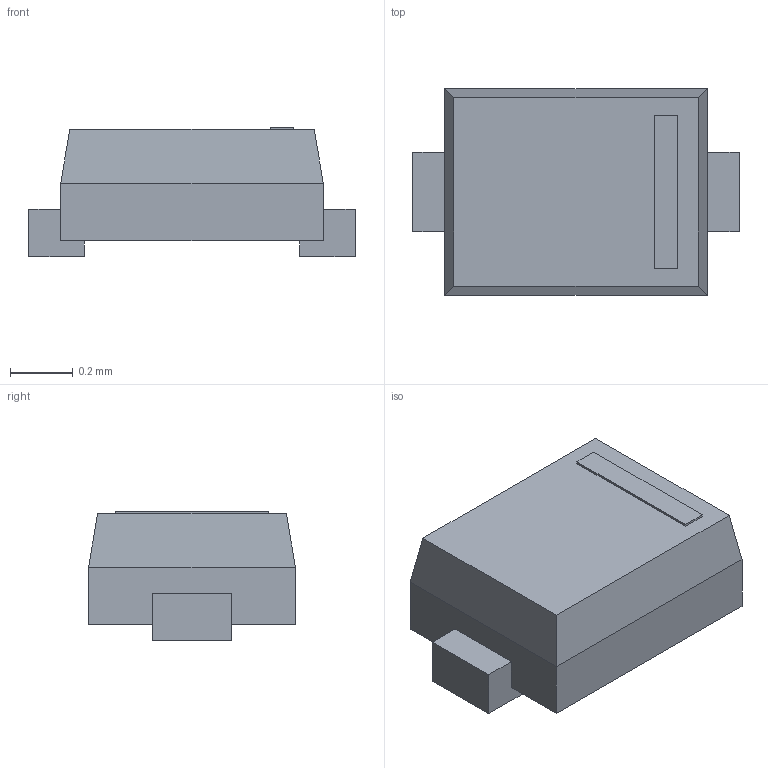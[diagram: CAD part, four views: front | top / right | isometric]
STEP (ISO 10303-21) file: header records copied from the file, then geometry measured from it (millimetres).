
FILE_DESCRIPTION(('STEP AP214'),'1');
FILE_NAME('ZDO_SOD-923_ONS','2021-09-22T01:34:02',(''),(''),'','','');
FILE_SCHEMA(('AUTOMOTIVE_DESIGN'));
Length unit declared in the file: millimetre
Products named in the file (1): product
Bounding box: 1.04 x 0.66 x 0.41 mm (x, y, z)
Volume: 0.2 mm3; surface area: 2.6 mm2
Topology: 4 solids, 4 shells, 32 faces, 68 edges, 44 vertices
Faces by surface type: plane 32
Entity records: 849 total; most frequent: ORIENTED_EDGE 136, DIRECTION 134, CARTESIAN_POINT 77, EDGE_CURVE 68, LINE 68, VECTOR 68, VERTEX_POINT 44, AXIS2_PLACEMENT_3D 33
